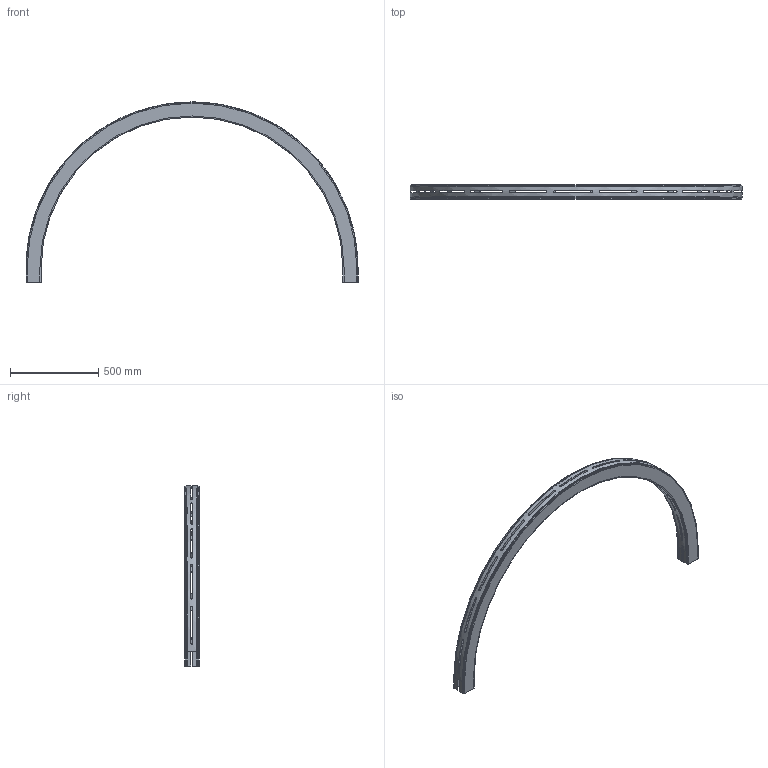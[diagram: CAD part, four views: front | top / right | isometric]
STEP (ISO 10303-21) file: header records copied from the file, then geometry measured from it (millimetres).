
FILE_DESCRIPTION(/* description */ ('GLIDKURVA SERIE 530'),/* implementation_level */ '2;1');
FILE_NAME(/* name */ '530-5375+830-2000-01.stp',/* time_stamp */ '2022-09-20T15:52:54+02:00',/* author */ ('Mathias.Dore'),/* organization */ ('CARRYLINE'),/* preprocessor_version */ 'ST-DEVELOPER v19.2',/* originating_system */ 'Autodesk Inventor 2023',/* authorisation */ '');
FILE_SCHEMA (('AUTOMOTIVE_DESIGN { 1 0 10303 214 3 1 1 }'));
Length unit declared in the file: millimetre
Products named in the file (1): 530-5375+830-2000-01
Bounding box: 1886 x 82 x 1023 mm (x, y, z)
Volume: 4325949.1 mm3; surface area: 2062323.2 mm2
Topology: 2 solids, 2 shells, 259 faces, 726 edges, 476 vertices
Faces by surface type: plane 157, bspline 62, cylinder 32, torus 4, cone 4
Entity records: 10917 total; most frequent: CARTESIAN_POINT 4328, ORIENTED_EDGE 1452, DIRECTION 1166, EDGE_CURVE 726, VERTEX_POINT 476, LINE 434, VECTOR 434, AXIS2_PLACEMENT_3D 366
